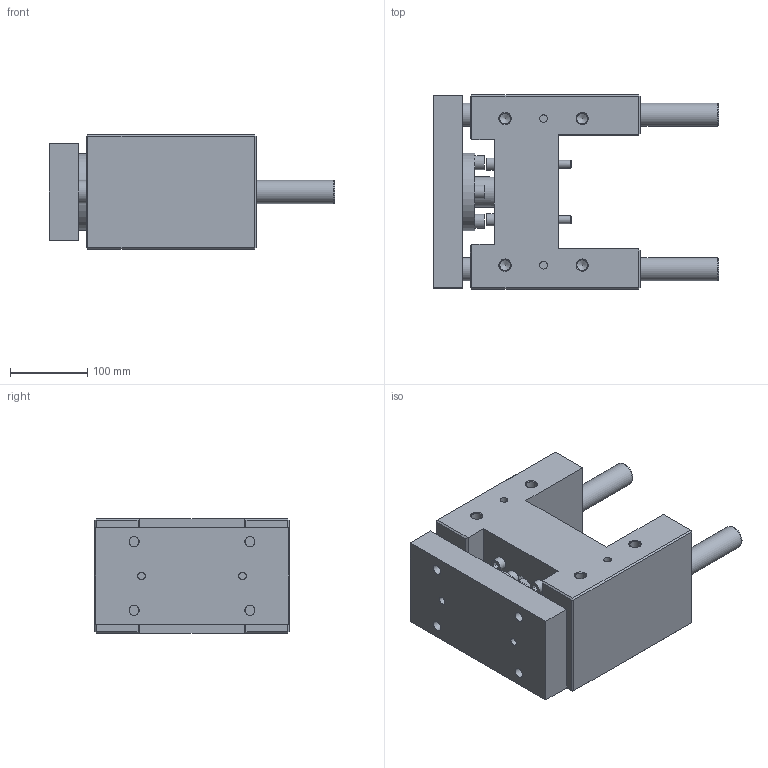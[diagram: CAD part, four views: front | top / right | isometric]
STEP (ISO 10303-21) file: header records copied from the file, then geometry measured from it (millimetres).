
FILE_DESCRIPTION( ( 'STEP AP214' ), '1' );
FILE_NAME( 'U:/Etudes/Top Solid/BIBLIO 3D AVM/TOP/PNEUMATIQUE/GUIDAGES/Type 32 (en H)/R_Renforcée/328R1230.step', '2005-05-27T09:13:51', ( ' ' ), ( ' ' ), 'XStep 1.0', ' ', ' ' );
FILE_SCHEMA( ( 'automotive_design' ) );
Length unit declared in the file: metre
Products named in the file (2): 1; 2
Bounding box: 370 x 252 x 148 mm (x, y, z)
Volume: 6462036.3 mm3; surface area: 524744.6 mm2
Topology: 2 solids, 7 shells, 239 faces, 527 edges, 341 vertices
Faces by surface type: plane 149, cylinder 69, cone 21
Full cylindrical faces by diameter (mm): 10 x12, 10.106 x4, 11 x4, 12 x8, 13 x8, 13.835 x8, 16 x4, 18 x4, 18.376 x2, 20 x4, 30 x4, 39 x1, 42 x1, 45 x1, 57 x1, 60 x1, 65 x1, 100 x1
Entity records: 7933 total; most frequent: CARTESIAN_POINT 1201, DIRECTION 1000, ORIENTED_EDGE 786, EDGE_CURVE 393, EDGE_LOOP 392, AXIS2_PLACEMENT_3D 374, FACE_OUTER_BOUND 308, VERTEX_POINT 303
